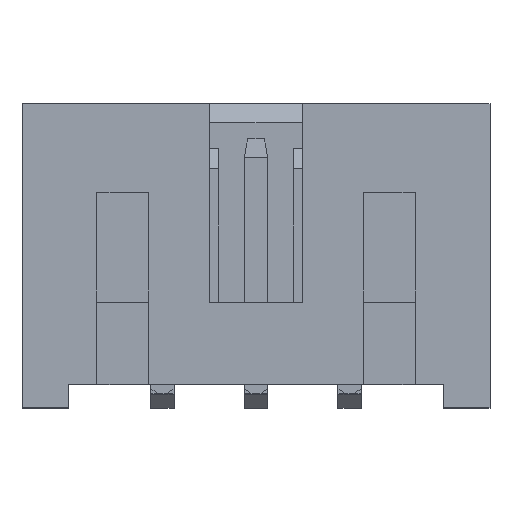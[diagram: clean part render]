
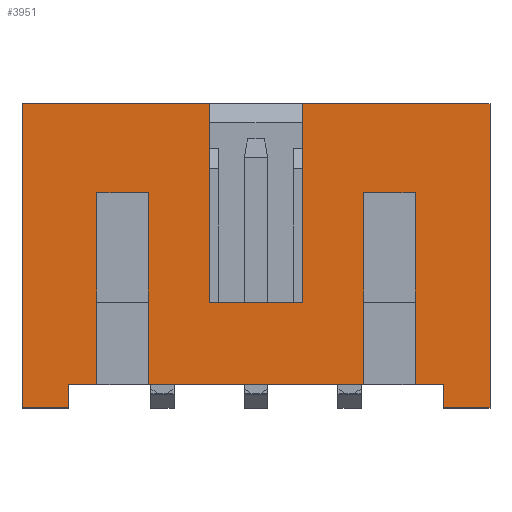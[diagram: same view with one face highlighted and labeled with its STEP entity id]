
A CAD part, top view. The second image highlights one B-rep face of the part: STEP entity #3951.
In plain terms, the highlighted planar face has unit normal (0, 0, 1).
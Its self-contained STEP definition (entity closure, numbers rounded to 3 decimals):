
#149=DIRECTION('',(1.,0.,0.));
#150=VECTOR('',#149,4.);
#151=CARTESIAN_POINT('',(3.,6.,0.));
#152=LINE('',#151,#150);
#153=DIRECTION('',(-1.,0.,0.));
#154=VECTOR('',#153,0.6);
#155=CARTESIAN_POINT('',(6.,0.,0.));
#156=LINE('',#155,#154);
#157=DIRECTION('',(-1.,0.,0.));
#158=VECTOR('',#157,4.6);
#159=CARTESIAN_POINT('',(4.3,0.,0.));
#160=LINE('',#159,#158);
#161=DIRECTION('',(-1.,0.,0.));
#162=VECTOR('',#161,0.6);
#163=CARTESIAN_POINT('',(-1.4,0.,0.));
#164=LINE('',#163,#162);
#169=DIRECTION('',(-1.,0.,0.));
#170=VECTOR('',#169,2.);
#171=CARTESIAN_POINT('',(3.,1.75,0.));
#172=LINE('',#171,#170);
#213=DIRECTION('',(1.,0.,0.));
#214=VECTOR('',#213,1.1);
#215=CARTESIAN_POINT('',(-1.4,4.1,0.));
#216=LINE('',#215,#214);
#229=DIRECTION('',(0.,-1.,0.));
#230=VECTOR('',#229,4.1);
#231=CARTESIAN_POINT('',(-0.3,4.1,0.));
#232=LINE('',#231,#230);
#249=DIRECTION('',(0.,1.,0.));
#250=VECTOR('',#249,4.1);
#251=CARTESIAN_POINT('',(-1.4,0.,0.));
#252=LINE('',#251,#250);
#285=DIRECTION('',(0.,1.,0.));
#286=VECTOR('',#285,4.25);
#287=CARTESIAN_POINT('',(1.,1.75,0.));
#288=LINE('',#287,#286);
#301=DIRECTION('',(-1.,0.,0.));
#302=VECTOR('',#301,4.);
#303=CARTESIAN_POINT('',(1.,6.,0.));
#304=LINE('',#303,#302);
#341=DIRECTION('',(0.,-1.,0.));
#342=VECTOR('',#341,6.5);
#343=CARTESIAN_POINT('',(-3.,6.,0.));
#344=LINE('',#343,#342);
#357=DIRECTION('',(1.,0.,0.));
#358=VECTOR('',#357,1.);
#359=CARTESIAN_POINT('',(-3.,-0.5,0.));
#360=LINE('',#359,#358);
#377=DIRECTION('',(0.,1.,0.));
#378=VECTOR('',#377,0.5);
#379=CARTESIAN_POINT('',(-2.,-0.5,0.));
#380=LINE('',#379,#378);
#925=DIRECTION('',(1.,0.,0.));
#926=VECTOR('',#925,1.1);
#927=CARTESIAN_POINT('',(4.3,4.1,0.));
#928=LINE('',#927,#926);
#937=DIRECTION('',(0.,1.,0.));
#938=VECTOR('',#937,4.1);
#939=CARTESIAN_POINT('',(4.3,0.,0.));
#940=LINE('',#939,#938);
#965=DIRECTION('',(0.,-1.,0.));
#966=VECTOR('',#965,4.1);
#967=CARTESIAN_POINT('',(5.4,4.1,0.));
#968=LINE('',#967,#966);
#1390=DIRECTION('',(1.,0.,0.));
#1391=VECTOR('',#1390,1.);
#1392=CARTESIAN_POINT('',(6.,-0.5,0.));
#1393=LINE('',#1392,#1391);
#1402=DIRECTION('',(0.,1.,0.));
#1403=VECTOR('',#1402,6.5);
#1404=CARTESIAN_POINT('',(7.,-0.5,0.));
#1405=LINE('',#1404,#1403);
#1573=DIRECTION('',(0.,-1.,0.));
#1574=VECTOR('',#1573,0.5);
#1575=CARTESIAN_POINT('',(6.,0.,0.));
#1576=LINE('',#1575,#1574);
#1589=DIRECTION('',(0.,-1.,0.));
#1590=VECTOR('',#1589,4.25);
#1591=CARTESIAN_POINT('',(3.,6.,0.));
#1592=LINE('',#1591,#1590);
#2672=CARTESIAN_POINT('',(3.,6.,0.));
#2674=VERTEX_POINT('',#2672);
#2839=CARTESIAN_POINT('',(4.3,0.,0.));
#2840=CARTESIAN_POINT('',(-0.3,0.,0.));
#2841=VERTEX_POINT('',#2839);
#2842=VERTEX_POINT('',#2840);
#2847=CARTESIAN_POINT('',(6.,0.,0.));
#2848=CARTESIAN_POINT('',(5.4,0.,0.));
#2849=VERTEX_POINT('',#2847);
#2850=VERTEX_POINT('',#2848);
#2859=CARTESIAN_POINT('',(-2.,0.,0.));
#2860=VERTEX_POINT('',#2859);
#2861=CARTESIAN_POINT('',(-1.4,0.,0.));
#2862=VERTEX_POINT('',#2861);
#2867=CARTESIAN_POINT('',(3.,1.75,0.));
#2868=CARTESIAN_POINT('',(1.,1.75,0.));
#2869=VERTEX_POINT('',#2867);
#2870=VERTEX_POINT('',#2868);
#2871=CARTESIAN_POINT('',(7.,6.,0.));
#2872=VERTEX_POINT('',#2871);
#2873=CARTESIAN_POINT('',(7.,-0.5,0.));
#2874=VERTEX_POINT('',#2873);
#2875=CARTESIAN_POINT('',(6.,-0.5,0.));
#2876=VERTEX_POINT('',#2875);
#2877=CARTESIAN_POINT('',(5.4,4.1,0.));
#2878=VERTEX_POINT('',#2877);
#2879=CARTESIAN_POINT('',(4.3,4.1,0.));
#2880=VERTEX_POINT('',#2879);
#2881=CARTESIAN_POINT('',(-0.3,4.1,0.));
#2882=VERTEX_POINT('',#2881);
#2883=CARTESIAN_POINT('',(-1.4,4.1,0.));
#2884=VERTEX_POINT('',#2883);
#2885=CARTESIAN_POINT('',(-2.,-0.5,0.));
#2886=VERTEX_POINT('',#2885);
#2887=CARTESIAN_POINT('',(-3.,6.,0.));
#2888=CARTESIAN_POINT('',(-3.,-0.5,0.));
#2889=VERTEX_POINT('',#2887);
#2890=VERTEX_POINT('',#2888);
#2891=CARTESIAN_POINT('',(1.,6.,0.));
#2892=VERTEX_POINT('',#2891);
#3907=CARTESIAN_POINT('',(2.,2.75,0.));
#3908=DIRECTION('',(0.,0.,1.));
#3909=DIRECTION('',(1.,0.,0.));
#3910=AXIS2_PLACEMENT_3D('',#3907,#3908,#3909);
#3911=PLANE('',#3910);
#3913=ORIENTED_EDGE('',*,*,#3912,.F.);
#3915=ORIENTED_EDGE('',*,*,#3914,.F.);
#3917=ORIENTED_EDGE('',*,*,#3916,.T.);
#3919=ORIENTED_EDGE('',*,*,#3918,.F.);
#3921=ORIENTED_EDGE('',*,*,#3920,.F.);
#3923=ORIENTED_EDGE('',*,*,#3922,.F.);
#3924=ORIENTED_EDGE('',*,*,#3869,.T.);
#3926=ORIENTED_EDGE('',*,*,#3925,.F.);
#3928=ORIENTED_EDGE('',*,*,#3927,.F.);
#3930=ORIENTED_EDGE('',*,*,#3929,.F.);
#3931=ORIENTED_EDGE('',*,*,#3861,.T.);
#3933=ORIENTED_EDGE('',*,*,#3932,.F.);
#3935=ORIENTED_EDGE('',*,*,#3934,.F.);
#3937=ORIENTED_EDGE('',*,*,#3936,.F.);
#3938=ORIENTED_EDGE('',*,*,#3896,.T.);
#3940=ORIENTED_EDGE('',*,*,#3939,.F.);
#3942=ORIENTED_EDGE('',*,*,#3941,.F.);
#3944=ORIENTED_EDGE('',*,*,#3943,.F.);
#3946=ORIENTED_EDGE('',*,*,#3945,.F.);
#3948=ORIENTED_EDGE('',*,*,#3947,.F.);
#3949=EDGE_LOOP('',(#3913,#3915,#3917,#3919,#3921,#3923,#3924,#3926,#3928,#3930,
#3931,#3933,#3935,#3937,#3938,#3940,#3942,#3944,#3946,#3948));
#3950=FACE_OUTER_BOUND('',#3949,.F.);
#3951=ADVANCED_FACE('',(#3950),#3911,.T.);
#3861=EDGE_CURVE('',#2841,#2842,#160,.T.);
#3869=EDGE_CURVE('',#2849,#2850,#156,.T.);
#3896=EDGE_CURVE('',#2862,#2860,#164,.T.);
#3912=EDGE_CURVE('',#2869,#2870,#172,.T.);
#3914=EDGE_CURVE('',#2674,#2869,#1592,.T.);
#3916=EDGE_CURVE('',#2674,#2872,#152,.T.);
#3918=EDGE_CURVE('',#2874,#2872,#1405,.T.);
#3920=EDGE_CURVE('',#2876,#2874,#1393,.T.);
#3922=EDGE_CURVE('',#2849,#2876,#1576,.T.);
#3925=EDGE_CURVE('',#2878,#2850,#968,.T.);
#3927=EDGE_CURVE('',#2880,#2878,#928,.T.);
#3929=EDGE_CURVE('',#2841,#2880,#940,.T.);
#3932=EDGE_CURVE('',#2882,#2842,#232,.T.);
#3934=EDGE_CURVE('',#2884,#2882,#216,.T.);
#3936=EDGE_CURVE('',#2862,#2884,#252,.T.);
#3939=EDGE_CURVE('',#2886,#2860,#380,.T.);
#3941=EDGE_CURVE('',#2890,#2886,#360,.T.);
#3943=EDGE_CURVE('',#2889,#2890,#344,.T.);
#3945=EDGE_CURVE('',#2892,#2889,#304,.T.);
#3947=EDGE_CURVE('',#2870,#2892,#288,.T.);
